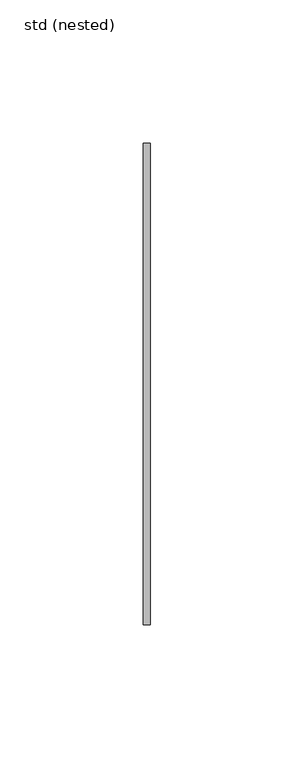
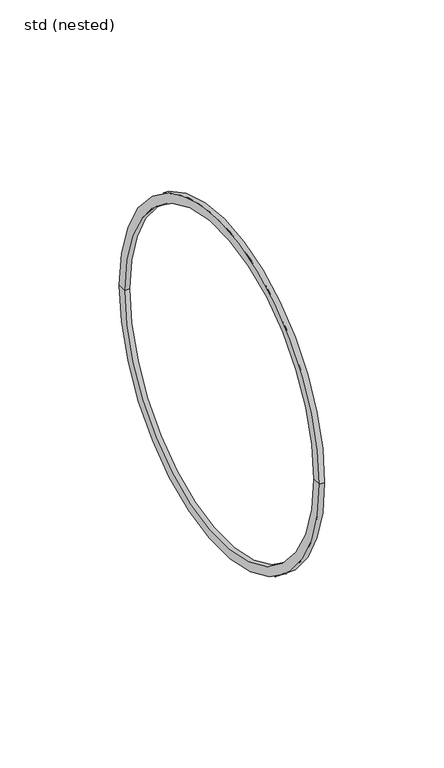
"""IFC4 building model written with IfcOpenShell, lengths in millimetres: pipe fitting geometry, ZZZ_do not use_PIF_ST_UN_GM-X seal non transitional_ACO : std (nested)."""

import ifcopenshell
import ifcopenshell.guid

model = None  # the IFC model being written
_history = None  # IfcOwnerHistory: only IFC2X3 demands one
_inside = {}  # id of a spatial element -> (the spatial element, [elements in it])
_under = {}  # id of a project, library or spatial element -> (it, [spatial elements below it])
_declared = {}  # id of a project -> (the project, [libraries it declares])
_typed = {}  # id of a type object -> (the type object, [elements of that type])
_made_of = {}  # id of a material, layer set ... -> (it, [elements and type objects made of it])


def new_model(schema):
    """Start an empty IFC model of exactly this schema.

    Asked for "IFC4X3", IfcOpenShell would pick the latest addendum, in which some entities
    have other attributes; the version numbers below select the first issue.
    IFC2X3 requires an IfcOwnerHistory on every rooted entity: one is made here for all.
    """
    global model, _history
    if schema == "IFC4X3":
        model = ifcopenshell.file(schema_version=(4, 3, 0, 0))
    else:
        model = ifcopenshell.file(schema=schema)
    _inside.clear()
    _under.clear()
    _declared.clear()
    _typed.clear()
    _made_of.clear()
    _history = None
    if model.schema == "IFC2X3":
        org = make("IfcOrganization", Name="unknown")
        user = make(
            "IfcPersonAndOrganization",
            ThePerson=make("IfcPerson", FamilyName="unknown"),
            TheOrganization=org,
        )
        app = make(
            "IfcApplication",
            ApplicationDeveloper=org,
            Version="unknown",
            ApplicationFullName="unknown",
            ApplicationIdentifier="unknown",
        )
        _history = make(
            "IfcOwnerHistory",
            OwningUser=user,
            OwningApplication=app,
            ChangeAction="ADDED",
            CreationDate=0,
        )
    return model


def make(cls, **values):
    """One entity of the class cls with the attributes given. An attribute that is None is left unset."""
    return model.create_entity(
        cls, **{name: value for name, value in values.items() if value is not None}
    )


def rooted(cls, **values):
    """An entity with a GlobalId (a new one), such as an element, a storey or a relation."""
    return make(cls, GlobalId=ifcopenshell.guid.new(), OwnerHistory=_history, **values)


def si_unit(unit_type, name, prefix=None):
    """IfcSIUnit, for example si_unit("LENGTHUNIT", "METRE", prefix="MILLI")."""
    return make("IfcSIUnit", UnitType=unit_type, Prefix=prefix, Name=name)


def assignment(units):
    """IfcUnitAssignment: the units of a project."""
    return None if units is None else make("IfcUnitAssignment", Units=units)


def point(xyz):
    """IfcCartesianPoint."""
    return None if xyz is None else make("IfcCartesianPoint", Coordinates=xyz)


def direction(xyz):
    """IfcDirection."""
    return None if xyz is None else make("IfcDirection", DirectionRatios=xyz)


def frame(location, z_axis=None, x_axis=None):
    """IfcAxis2Placement3D, a coordinate frame: its origin and axes. An axis left out is left unset."""
    return make(
        "IfcAxis2Placement3D",
        Location=point(location),
        Axis=direction(z_axis),
        RefDirection=direction(x_axis),
    )


def origin():
    """The frame at (0, 0, 0) with its axes left unset."""
    return frame((0.0, 0.0, 0.0))


def place(relative_to, where):
    """IfcLocalPlacement: puts the frame where relative to a parent placement (None: the world)."""
    return make(
        "IfcLocalPlacement", PlacementRelTo=relative_to, RelativePlacement=where
    )


def context(
    kind, dimensions, precision=None, world=None, true_north=None, identifier=None
):
    """IfcGeometricRepresentationContext, for example the 3D "Model" context."""
    return make(
        "IfcGeometricRepresentationContext",
        ContextIdentifier=identifier,
        ContextType=kind,
        CoordinateSpaceDimension=dimensions,
        Precision=precision,
        WorldCoordinateSystem=world,
        TrueNorth=true_north,
    )


def project(units=None, contexts=None):
    """IfcProject with its units and contexts."""
    return rooted(
        "IfcProject",
        Name="project",
        RepresentationContexts=contexts,
        UnitsInContext=assignment(units),
    )


def spatial(cls, under=None, at=None, **own):
    """A site, building, storey or space (cls), placed at a placement, below another one or the project."""
    s = rooted(cls, ObjectPlacement=at, **own)
    if under is not None:
        _under.setdefault(under.id(), (under, []))[1].append(s)
    return s


def polyline(points):
    """IfcPolyline through the points."""
    return make("IfcPolyline", Points=[point(p) for p in points])


def circle_curve(where, radius):
    """IfcCircle in the frame where."""
    return make("IfcCircle", Position=where, Radius=radius)


def shape(context_of_items, identifier, shape_type, items):
    """IfcShapeRepresentation: the items that make up one representation, for example the "Body"."""
    return make(
        "IfcShapeRepresentation",
        ContextOfItems=context_of_items,
        RepresentationIdentifier=identifier,
        RepresentationType=shape_type,
        Items=items,
    )


def source(mapping_origin, context_of_items, identifier, shape_type, items):
    """IfcRepresentationMap: a shape defined once, which mapped items show again and again."""
    return make(
        "IfcRepresentationMap",
        MappingOrigin=mapping_origin,
        MappedRepresentation=shape(context_of_items, identifier, shape_type, items),
    )


def transform(
    local_origin,
    x_axis=None,
    y_axis=None,
    z_axis=None,
    scale=None,
    scale2=None,
    scale3=None,
    uniform=True,
):
    """IfcCartesianTransformationOperator3D, or its non-uniform kind. x_axis, y_axis, z_axis: its Axis1, 2, 3."""
    if uniform:
        return make(
            "IfcCartesianTransformationOperator3D",
            Axis1=direction(x_axis),
            Axis2=direction(y_axis),
            LocalOrigin=point(local_origin),
            Scale=scale,
            Axis3=direction(z_axis),
        )
    return make(
        "IfcCartesianTransformationOperator3DnonUniform",
        Axis1=direction(x_axis),
        Axis2=direction(y_axis),
        LocalOrigin=point(local_origin),
        Scale=scale,
        Axis3=direction(z_axis),
        Scale2=scale2,
        Scale3=scale3,
    )


def mapped(mapping_source, mapping_target):
    """IfcMappedItem: shows the shape of a source again, moved by a transform."""
    return make(
        "IfcMappedItem", MappingSource=mapping_source, MappingTarget=mapping_target
    )


def made_of(thing, what):
    """Note that an element or type object is made of a material, layer set ...; save() writes the relation."""
    if what is not None:
        _made_of.setdefault(what.id(), (what, []))[1].append(thing)
    return thing


def element(
    cls,
    number,
    at=None,
    inside=None,
    cuts=None,
    type_object=None,
    material=None,
    context=None,
    identifier="Body",
    shape_type=None,
    held_by="IfcProductDefinitionShape",
    body=None,
    shapes=None,
    **own,
):
    """One element of the class cls, such as IfcWall. Its Tag is "e" and its number.

    at: its placement. inside: the storey or other place that contains it. cuts: it is an
    opening in that element (IfcRelVoidsElement). A single representation is given by context,
    identifier, shape_type and body (its items); several are given by shapes. held_by: the class
    of the entity that holds the representations. save() writes the other relations.
    """
    e = rooted(cls, Tag="e%d" % number, ObjectPlacement=at, **own)
    if body is not None:
        shapes = [shape(context, identifier, shape_type, body)]
    if shapes is not None:
        e.Representation = make(held_by, Representations=shapes)
    if inside is not None:
        _inside.setdefault(inside.id(), (inside, []))[1].append(e)
    if cuts is not None:
        rooted(
            "IfcRelVoidsElement", RelatingBuildingElement=cuts, RelatedOpeningElement=e
        )
    if type_object is not None:
        _typed.setdefault(type_object.id(), (type_object, []))[1].append(e)
    return made_of(e, material)


def aggregate(whole, parts):
    """IfcRelAggregates: a whole, such as a stair, and the parts it consists of."""
    return rooted("IfcRelAggregates", RelatingObject=whole, RelatedObjects=parts)


def save(model, path):
    """Write the relations noted so far, then the file.

    IfcRelAggregates (storeys below a building ...), IfcRelContainedInSpatialStructure (elements
    in a storey), IfcRelDefinesByType, IfcRelAssociatesMaterial and IfcRelDeclares: one each for
    every whole, place, type object, material and project.
    """
    for whole, parts in _under.values():
        aggregate(whole, parts)
    for where, things in _inside.values():
        rooted(
            "IfcRelContainedInSpatialStructure",
            RelatedElements=things,
            RelatingStructure=where,
        )
    for kind, things in _typed.values():
        rooted("IfcRelDefinesByType", RelatedObjects=things, RelatingType=kind)
    for what, things in _made_of.values():
        rooted("IfcRelAssociatesMaterial", RelatedObjects=things, RelatingMaterial=what)
    for by, libraries in _declared.values():
        rooted("IfcRelDeclares", RelatingContext=by, RelatedDefinitions=libraries)
    model.write(path)


def plane_surface(at):
    """IfcPlane: the flat surface through the origin of the frame at, square to its z axis."""
    return make("IfcPlane", Position=at)


def cylinder_surface(at, radius):
    """IfcCylindricalSurface: all points at the distance radius from the z axis of the frame at."""
    return make("IfcCylindricalSurface", Position=at, Radius=radius)


def revolved_surface(curve, axis_point, axis_direction):
    """IfcSurfaceOfRevolution: the curve turned about the line through axis_point along axis_direction."""
    return make(
        "IfcSurfaceOfRevolution",
        SweptCurve=make("IfcArbitraryOpenProfileDef", ProfileType="CURVE", Curve=curve),
        AxisPosition=make("IfcAxis1Placement", Location=point(axis_point), Axis=direction(axis_direction)),
    )


def advanced_brep(points, edges, surfaces, faces):
    """IfcAdvancedBrep: a solid bounded by faces that lie on surfaces and meet in shared edges.

    An edge is (start, end): straight between two places in points (the first is 0);
    or (start, end, curve); or (start, end, curve, False) where it runs against its curve.
    A face is (place in surfaces, loops), or (place, loops, False) where it looks against
    its surface's normal. A loop lists edges by number (the first is 1), with a minus sign
    where the edge is run from its end to its start. The first loop is the outer one.
    """
    corners = [point(p) for p in points]
    vertices = [make("IfcVertexPoint", VertexGeometry=c) for c in corners]
    made = []
    for start, end, *more in edges:
        made.append(
            make(
                "IfcEdgeCurve",
                EdgeStart=vertices[start],
                EdgeEnd=vertices[end],
                EdgeGeometry=more[0] if more else make("IfcPolyline", Points=[corners[start], corners[end]]),
                SameSense=more[1] if len(more) > 1 else True,
            )
        )
    hull = []
    for where, loops, *sense in faces:
        bounds = []
        for j, loop in enumerate(loops):
            ring = [make("IfcOrientedEdge", EdgeElement=made[abs(k) - 1], Orientation=k > 0) for k in loop]
            bounds.append(
                make(
                    "IfcFaceOuterBound" if j == 0 else "IfcFaceBound",
                    Bound=make("IfcEdgeLoop", EdgeList=ring),
                    Orientation=True,
                )
            )
        hull.append(make("IfcAdvancedFace", Bounds=bounds, FaceSurface=surfaces[where], SameSense=sense[0] if sense else True))
    return make("IfcAdvancedBrep", Outer=make("IfcClosedShell", CfsFaces=hull))


def std_nested_72f87268(model_context):
    return source(origin(), model_context, "Body", "AdvancedBrep", [
        advanced_brep(
        [(0.0, -84.0, 0.0), (0.0, 84.0, 0.0), (2.5, 84.0, 0.0), (2.5, -84.0, 0.0), (0.0, -79.5, 0.0), (0.0, 79.5, 0.0), (2.5, -79.5, 0.0), (2.5, 79.5, 0.0)],
        [
            (0, 1, circle_curve(frame((0.0, 0.0, 0.0), z_axis=(1.0, 0.0, 0.0), x_axis=(0.0, 1.0, 0.0)), 84.0)),
            (1, 2),
            (2, 3, circle_curve(frame((2.5, 0.0, 0.0), z_axis=(-1.0, 0.0, 0.0), x_axis=(0.0, 1.0, 0.0)), 84.0)),
            (3, 0),
            (1, 0, circle_curve(frame((0.0, 0.0, 0.0), z_axis=(1.0, 0.0, 0.0), x_axis=(0.0, 1.0, 0.0)), 84.0)),
            (3, 2, circle_curve(frame((2.5, 0.0, 0.0), z_axis=(-1.0, 0.0, 0.0), x_axis=(0.0, 1.0, 0.0)), 84.0)),
            (4, 5, circle_curve(frame((0.0, 0.0, 0.0), z_axis=(1.0, 0.0, 0.0), x_axis=(0.0, 1.0, 0.0)), 79.5)),
            (5, 1),
            (0, 4),
            (5, 4, circle_curve(frame((0.0, 0.0, 0.0), z_axis=(1.0, 0.0, 0.0), x_axis=(0.0, 1.0, 0.0)), 79.5)),
            (6, 7, circle_curve(frame((2.5, 0.0, 0.0), z_axis=(1.0, 0.0, 0.0), x_axis=(0.0, 1.0, 0.0)), 79.5)),
            (7, 5),
            (4, 6),
            (7, 6, circle_curve(frame((2.5, 0.0, 0.0), z_axis=(1.0, 0.0, 0.0), x_axis=(0.0, 1.0, 0.0)), 79.5)),
            (2, 7),
            (6, 3),
        ],
        [
            cylinder_surface(frame((-0.8180655, 0.0, 0.0), z_axis=(-1.0, 0.0, 0.0), x_axis=(0.0, 1.0, 0.0)), 84.0),
            plane_surface(frame((0.0, 0.0, 0.0), z_axis=(-1.0, 0.0, 0.0), x_axis=(0.0, 1.0, 0.0))),
            revolved_surface(polyline([(0.0, 79.5, 0.0), (2.5, 79.5, 0.0)]), (-0.8180655, 0.0, 0.0), (-1.0, 0.0, 0.0)),
            plane_surface(frame((2.5, 0.0, 0.0), z_axis=(1.0, 0.0, 0.0), x_axis=(0.0, 1.0, 0.0))),
        ],
        [
            (0, [[1, 2, 3, 4]]),
            (0, [[5, -4, 6, -2]]),
            (1, [[7, 8, -1, 9]]),
            (1, [[10, -9, -5, -8]]),
            (2, [[11, 12, -7, 13]]),
            (2, [[14, -13, -10, -12]]),
            (3, [[-3, 15, -11, 16]]),
            (3, [[-6, -16, -14, -15]]),
        ],
    ),
    ])


if __name__ == "__main__":
    model = new_model("IFC4")
    model_context = context("Model", 3, world=origin())
    ifc_project = project(units=[si_unit("LENGTHUNIT", "METRE", prefix="MILLI")], contexts=[model_context])
    site = spatial("IfcSite", under=ifc_project)
    building = spatial("IfcBuilding", under=site)
    placement = place(None, origin())
    std_nested_shape = std_nested_72f87268(model_context)
    element("IfcPipeFitting", 1, ObjectType="ZZZ_do not use_PIF_ST_UN_GM-X seal non transitional_ACO : std (nested)", at=placement, inside=building, context=model_context, shape_type="MappedRepresentation", body=[
        mapped(std_nested_shape, transform((0.0, 0.0, 0.0), x_axis=(1.0, 0.0, 0.0), y_axis=(0.0, 1.0, 0.0), z_axis=(0.0, 0.0, 1.0))),
    ])
    save(model, "model.ifc")
